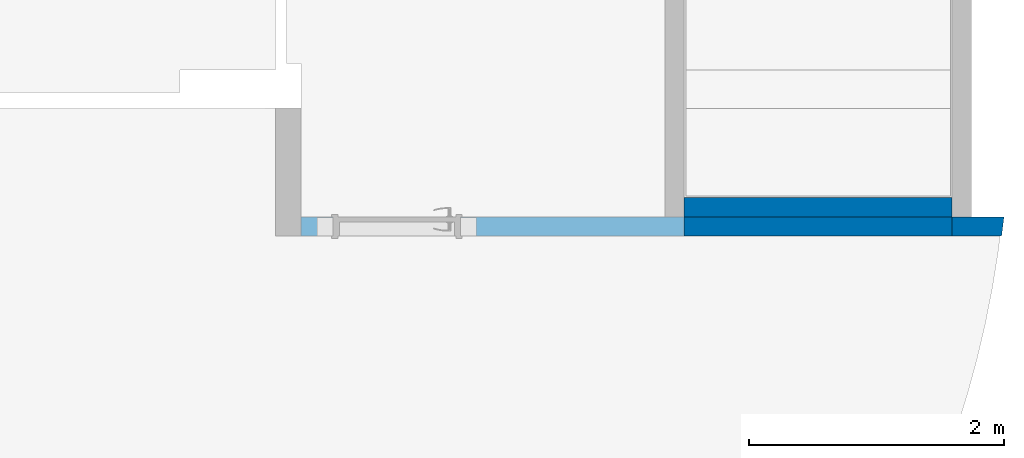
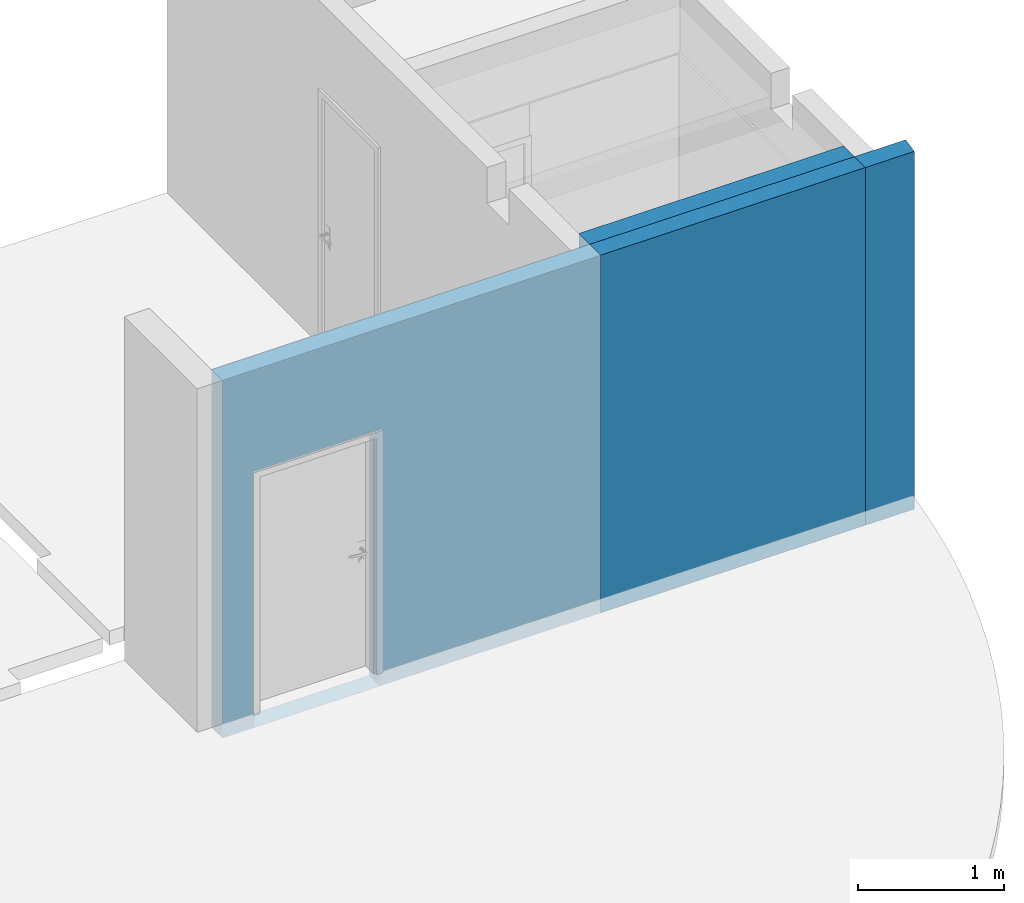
# One storey, part 13 of 17: 3 walls, 1 opening, plus 1 element that does not belong to this part.
"""IFC4 building model written with IfcOpenShell, lengths in millimetres."""

from ifc_helpers import new_model, entity, si_unit, converted_unit, derived_unit, direction, frame, origin_with_axes, place, context, subcontext, project, spatial, polygons, material, constituent, constituent_set, type_object, element, save


model = new_model("IFC4")

# Units and contexts
model_context = context("Model", 3, precision=0.01, world=origin_with_axes(), true_north=direction((0.0, 1.0)))
body_context = subcontext(model_context, "Body", "Model", "MODEL_VIEW")
ifc_project = project(units=[si_unit("LENGTHUNIT", "METRE", prefix="MILLI"), si_unit("AREAUNIT", "SQUARE_METRE"), si_unit("VOLUMEUNIT", "CUBIC_METRE"), converted_unit("PLANEANGLEUNIT", "DEGREE", entity("IfcPlaneAngleMeasure", 0.0174532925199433), si_unit("PLANEANGLEUNIT", "RADIAN"), dimensions=[0, 0, 0, 0, 0, 0, 0]), converted_unit("TIMEUNIT", "Year", entity("IfcTimeMeasure", 31557600.0), si_unit("TIMEUNIT", "SECOND"), dimensions=[0, 0, 1, 0, 0, 0, 0]), si_unit("MASSUNIT", "GRAM", prefix="KILO"), si_unit("THERMODYNAMICTEMPERATUREUNIT", "DEGREE_CELSIUS"), si_unit("LUMINOUSINTENSITYUNIT", "LUMEN"), si_unit("ENERGYUNIT", "JOULE", prefix="MEGA"), derived_unit("THERMALCONDUCTANCEUNIT", [(si_unit("POWERUNIT", "WATT"), 1), (si_unit("LENGTHUNIT", "METRE"), -1), (si_unit("THERMODYNAMICTEMPERATUREUNIT", "KELVIN"), -1)]), derived_unit("SPECIFICHEATCAPACITYUNIT", [(si_unit("ENERGYUNIT", "JOULE"), 1), (si_unit("MASSUNIT", "GRAM", prefix="KILO"), -1), (si_unit("THERMODYNAMICTEMPERATUREUNIT", "KELVIN"), -1)]), derived_unit("MASSDENSITYUNIT", [(si_unit("MASSUNIT", "GRAM", prefix="KILO"), 1), (si_unit("VOLUMEUNIT", "CUBIC_METRE"), -1)])], contexts=[model_context])

# Site, building, storey
site_placement = place(None, origin_with_axes())
site = spatial("IfcSite", under=ifc_project, at=site_placement, Name="Exteriér", CompositionType="ELEMENT")
building_placement = place(site_placement, origin_with_axes())
building = spatial("IfcBuilding", under=site, at=building_placement, Name="Univerzitní lezecké centrum", CompositionType="ELEMENT")
storey_placement = place(building_placement, frame((0.0, 0.0, 3200.0), z_axis=(0.0, 0.0, 1.0), x_axis=(1.0, 0.0, 0.0)))
storey = spatial("IfcBuildingStorey", under=building, at=storey_placement, Name="2.NP", CompositionType="ELEMENT", Elevation=3200.0)

# Walls
ifc_material_1 = material(Name="Keramická dlažba 20x40 - obklad")
ifc_constituent_1 = constituent(ifc_material_1, Name="Keramická dlažba 20x40 - obklad")
ifc_material_2 = material(Name="Lepicí tmel na dlažbu a obklady")
ifc_constituent_2 = constituent(ifc_material_2, Name="Lepicí tmel na dlažbu a obklady")
ifc_material_3 = material(Name="Sádrokarton - voděodolný")
ifc_constituent_3 = constituent(ifc_material_3, Name="Sádrokarton - voděodolný 1")
ifc_constituent_4 = constituent(ifc_material_3, Name="Sádrokarton - voděodolný 2")
ifc_material_4 = material(Name="SDK nosný rám")
ifc_constituent_5 = constituent(ifc_material_4, Name="SDK nosný rám")
ifc_constituent_set_1 = constituent_set(constituents=[ifc_constituent_1, ifc_constituent_2, ifc_constituent_3, ifc_constituent_4, ifc_constituent_5], Name="SDK - instalační předstěna")
wall_type_1 = type_object("IfcWallType", Name="SDK - instalační předstěna 150", PredefinedType="NOTDEFINED")
wall_1_placement = place(storey_placement, frame((7900.096919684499, -1149.612793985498, -120.000000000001), z_axis=(0.0, 0.0, 1.0), x_axis=(1.0, 0.0, 0.0)))
element("IfcWall", 1, at=wall_1_placement, inside=storey, type_object=wall_type_1, material=ifc_constituent_set_1, Name="St08*", PredefinedType="NOTDEFINED", context=body_context, shape_type="Tessellation", body=[
    polygons([(0.0, 149.9999999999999, 0.500000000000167), (2099.754729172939, 149.9999999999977, 0.500000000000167), (2099.754729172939, 149.9999999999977, 120.0000000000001), (0.0, 149.9999999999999, 120.0000000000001), (0.0, 150.0000000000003, 3000.0), (2099.796584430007, 149.9999999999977, 3000.0), (2099.796584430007, 149.9999999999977, 0.0), (0.0, 149.9999999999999, 0.0), (0.0, 142.9999999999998, 0.500000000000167), (2099.754729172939, 142.999999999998, 0.500000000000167), (2099.754729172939, 142.9999999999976, 120.0000000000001), (0.0, 142.9999999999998, 120.0000000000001), (0.0, 143.0000000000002, 3000.0), (2099.796584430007, 142.9999999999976, 3000.0), (2099.796584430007, 142.9999999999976, 0.0), (0.0, 142.9999999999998, 0.0)], [[[1, 2, 3, 4, 5, 6, 7, 8]], [[2, 1, 9, 10]], [[3, 2, 10, 11]], [[4, 3, 11, 12]], [[4, 12, 13, 5]], [[13, 14, 6, 5]], [[6, 14, 15, 7]], [[8, 7, 15, 16]], [[9, 1, 8, 16]], [[10, 9, 16, 15, 14, 13, 12, 11]]], closed=True),
    polygons([(2099.796584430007, 139.9999999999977, 3000.0), (2099.796584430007, 142.9999999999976, 3000.0), (0.0, 143.0000000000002, 3000.0), (0.0, 140.0000000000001, 3000.0), (2099.796584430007, 139.9999999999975, 0.0), (2099.796584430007, 142.9999999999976, 0.0), (0.0, 143.0, 0.0), (0.0, 140.0000000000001, 0.0)], [[[1, 2, 3, 4]], [[1, 5, 6, 2]], [[2, 6, 7, 3]], [[4, 3, 7, 8]], [[5, 1, 4, 8]], [[6, 5, 8, 7]]], closed=True),
    polygons([(2099.796584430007, 126.9999999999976, 3000.0), (2099.796584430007, 139.9999999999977, 3000.0), (0.0, 140.0000000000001, 3000.0), (0.0, 127.0000000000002, 3000.0), (2099.796584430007, 126.9999999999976, 0.0), (2099.796584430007, 139.9999999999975, 0.0), (0.0, 140.0000000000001, 0.0), (0.0, 127.0, 0.0)], [[[1, 2, 3, 4]], [[1, 5, 6, 2]], [[2, 6, 7, 3]], [[4, 3, 7, 8]], [[5, 1, 4, 8]], [[6, 5, 8, 7]]], closed=True),
    polygons([(2099.796584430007, 114.9999999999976, 3000.0), (2099.796584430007, 126.9999999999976, 3000.0), (0.0, 127.0000000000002, 3000.0), (0.0, 115.0000000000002, 3000.0), (2099.796584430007, 114.9999999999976, 0.0), (2099.796584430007, 126.9999999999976, 0.0), (0.0, 127.0, 0.0), (0.0, 115.0, 0.0)], [[[1, 2, 3, 4]], [[1, 5, 6, 2]], [[2, 6, 7, 3]], [[4, 3, 7, 8]], [[5, 1, 4, 8]], [[6, 5, 8, 7]]], closed=True),
    polygons([(0.0, 0.0, 3000.0), (2099.796584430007, 0.0, 3000.0), (2099.796584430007, 114.9999999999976, 3000.0), (0.0, 115.0000000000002, 3000.0), (0.0, 0.0, 0.0), (2099.796584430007, 0.0, 0.0), (2099.796584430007, 114.9999999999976, 0.0), (0.0, 115.0, 0.0)], [[[1, 2, 3, 4]], [[5, 6, 2, 1]], [[3, 2, 6, 7]], [[4, 3, 7, 8]], [[5, 1, 4, 8]], [[8, 7, 6, 5]]], closed=True),
])
ifc_material_5 = material(Name="Keramické tvárnice nenosné tl. 150 mm")
ifc_constituent_6 = constituent(ifc_material_5, Name="Keramické tvárnice nenosné tl. 150 mm")
ifc_constituent_set_2 = constituent_set(constituents=[ifc_constituent_6], Name="!Vnitřní keramická stěna 150 mm - nenosná")
wall_type_2 = type_object("IfcWallType", Name="!Vnitřní keramická stěna 150 mm - nenosná 150", PredefinedType="NOTDEFINED")
wall_2_placement = place(storey_placement, frame((10404.60859676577, -1149.612793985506, -120.000000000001), z_axis=(0.0, 0.0, 1.0), x_axis=(-1.0, 0.0, 0.0)))
element("IfcWall", 2, at=wall_2_placement, inside=storey, type_object=wall_type_2, material=ifc_constituent_set_2, Name="St07", PredefinedType="NOTDEFINED", context=body_context, shape_type="Tessellation", body=[
    polygons([(404.7150926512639, 0.0, 0.0), (404.7150926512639, 0.0, 2999.999999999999), (-1.254826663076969, 0.0, 2999.999999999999), (-1.254826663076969, 0.0, 0.0), (404.7150926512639, 149.9999999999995, 0.0), (404.7150926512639, 150.0000140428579, 3000.0), (17.44974833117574, 150.0000147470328, 3000.0), (-1.191973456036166, 0.7065438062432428, 2999.999999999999), (-1.191973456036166, 0.7065438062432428, 0.0), (17.44974833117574, 149.9999999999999, 0.0)], [[[1, 2, 3, 4]], [[5, 6, 2, 1]], [[7, 8, 3, 2, 6]], [[4, 3, 8, 9]], [[1, 4, 9, 10, 5]], [[10, 7, 6, 5]], [[9, 8, 7, 10]]], closed=True),
])

# Wall, opening
ifc_constituent_7 = constituent(ifc_material_5, Name="Keramické tvárnice nenosné tl. 150 mm")
ifc_constituent_set_3 = constituent_set(constituents=[ifc_constituent_7], Name="!Vnitřní keramická stěna 150 mm - nenosná")
wall_3_placement = place(storey_placement, frame((7900.096919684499, -1149.612793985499, -120.000000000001), z_axis=(0.0, 0.0, 1.0), x_axis=(-1.0, 0.0, 0.0)))
wall_3 = element("IfcWall", 3, at=wall_3_placement, inside=storey, type_object=wall_type_2, material=ifc_constituent_set_3, Name="St07", PredefinedType="NOTDEFINED", context=body_context, shape_type="Tessellation", body=[
    polygons([(0.0, 0.0, 3000.0), (0.0, 0.0, 0.0), (3000.145758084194, 0.0, 0.0), (3000.145758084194, 0.0, 3000.0), (2750.145758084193, 0.0, 2140.000000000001), (2750.145758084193, 0.0, 120.000000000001), (2750.145758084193, 0.0, 0.500000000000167), (1750.145758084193, 0.0, 0.500000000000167), (1750.145758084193, 0.0, 120.000000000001), (1750.145758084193, 0.0, 2140.000000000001), (0.0, 150.0000102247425, 3000.0), (0.0, 149.9999999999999, 0.0), (3000.145758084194, 149.999999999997, 0.0), (3000.145758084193, 150.0000047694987, 3000.0), (2750.145758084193, 150.0000102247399, 2140.000000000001), (2750.145758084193, 149.9999999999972, 120.000000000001), (2750.145758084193, 149.9999999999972, 0.500000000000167), (1750.145758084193, 149.9999999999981, 0.500000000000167), (1750.145758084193, 149.9999999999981, 120.000000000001), (1750.145758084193, 150.0000102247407, 2140.000000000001)], [[[1, 2, 3, 4], [5, 6, 7, 8, 9, 10]], [[11, 12, 2, 1]], [[13, 3, 2, 12]], [[4, 3, 13, 14]], [[1, 4, 14, 11]], [[6, 5, 15, 16]], [[6, 16, 17, 7]], [[7, 17, 18, 8]], [[19, 9, 8, 18]], [[10, 9, 19, 20]], [[5, 10, 20, 15]], [[14, 13, 12, 11], [20, 19, 18, 17, 16, 15]]], closed=True),
])
opening_placement = place(wall_3_placement, frame((2250.145758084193, 0.0, 120.000000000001), z_axis=(0.0, 0.0, 1.0), x_axis=(1.0, 0.0, 0.0)))
element("IfcOpeningElement", 4, at=opening_placement, cuts=wall_3, Name="D18", context=body_context, identifier="Reference", shape_type="Tessellation", body=[
    polygons([(500.0, -1.000000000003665, 2020.0), (-500.0, -1.000000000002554, 2020.0), (-500.0, -1.000000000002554, 0.0), (500.0, -1.000000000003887, 0.0), (512.0000000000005, -1.000000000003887, 0.0), (512.0000000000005, -1.000000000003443, 2032.0), (-512.0000000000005, -1.000000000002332, 2032.0), (-512.0000000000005, -1.000000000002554, 0.0), (500.0, 0.0, 0.0), (-500.0, 0.0, 0.0), (-500.0, 149.9999999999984, 0.0), (-500.0, 151.0000000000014, 0.0), (500.0, 151.0000000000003, 0.0), (500.0, 149.9999999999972, 0.0), (512.0000000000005, 0.0, 0.0), (512.0000000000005, 0.0, 2032.0), (-512.0000000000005, 0.0, 2032.0), (-512.0000000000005, 0.0, 0.0), (-500.0, 0.0, 2020.0), (-500.0, 149.9999999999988, 2020.0), (-512.0000000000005, 149.9999999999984, 0.0), (-512.0000000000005, 151.0000000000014, 0.0), (-512.0000000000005, 151.0000000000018, 2032.0), (512.0000000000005, 151.0000000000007, 2032.0), (512.0000000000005, 151.0000000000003, 0.0), (512.0000000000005, 149.9999999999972, 0.0), (500.0, 0.0, 2020.0), (500.0, 149.9999999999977, 2020.0), (512.0000000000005, 149.9999999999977, 2032.0), (-512.0000000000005, 149.9999999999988, 2032.0)], [[[1, 2, 3, 4]], [[3, 2, 1, 4, 5, 6, 7, 8]], [[9, 4, 3, 10, 11, 12, 13, 14]], [[4, 9, 15, 5]], [[15, 16, 6, 5]], [[16, 17, 7, 6]], [[17, 18, 8, 7]], [[10, 3, 8, 18]], [[10, 19, 20, 11]], [[12, 11, 21, 22]], [[13, 12, 22, 23, 24, 25]], [[14, 13, 25, 26]], [[27, 9, 14, 28]], [[27, 19, 10, 18, 17, 16, 15, 9]], [[19, 27, 28, 20]], [[11, 20, 28, 14, 26, 29, 30, 21]], [[21, 30, 23, 22]], [[30, 29, 24, 23]], [[29, 26, 25, 24]]], closed=True),
])

# Wall
ifc_constituent_8 = constituent(ifc_material_5, Name="Keramické tvárnice nenosné tl. 150 mm")
ifc_constituent_set_4 = constituent_set(constituents=[ifc_constituent_8], Name="!Vnitřní keramická stěna 150 mm - nenosná s omítkou")
wall_type_3 = type_object("IfcWallType", Name="!Vnitřní keramická stěna 150 mm - nenosná s omítkou 150", PredefinedType="NOTDEFINED")
wall_4_placement = place(storey_placement, frame((9999.893504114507, -1149.612793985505, -120.000000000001), z_axis=(0.0, 0.0, 1.0), x_axis=(-1.0, 0.0, 0.0)))
element("IfcWall", 5, at=wall_4_placement, inside=storey, type_object=wall_type_3, material=ifc_constituent_set_4, Name="St08*", PredefinedType="NOTDEFINED", context=body_context, shape_type="Tessellation", body=[
    polygons([(2099.796584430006, 0.0, 3000.0), (0.0, 0.0, 3000.0), (0.0, 0.0, 0.0), (2099.796584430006, 0.0, 0.0), (0.0, 150.0000140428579, 3000.0), (2099.796584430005, 150.0000102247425, 3000.0), (0.0, 149.9999999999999, 0.0), (2099.796584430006, 149.9999999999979, 0.0)], [[[1, 2, 3, 4]], [[5, 2, 1, 6]], [[2, 5, 7, 3]], [[3, 7, 8, 4]], [[6, 1, 4, 8]], [[5, 6, 8, 7]]], closed=True),
])

save(model, "model.ifc")
